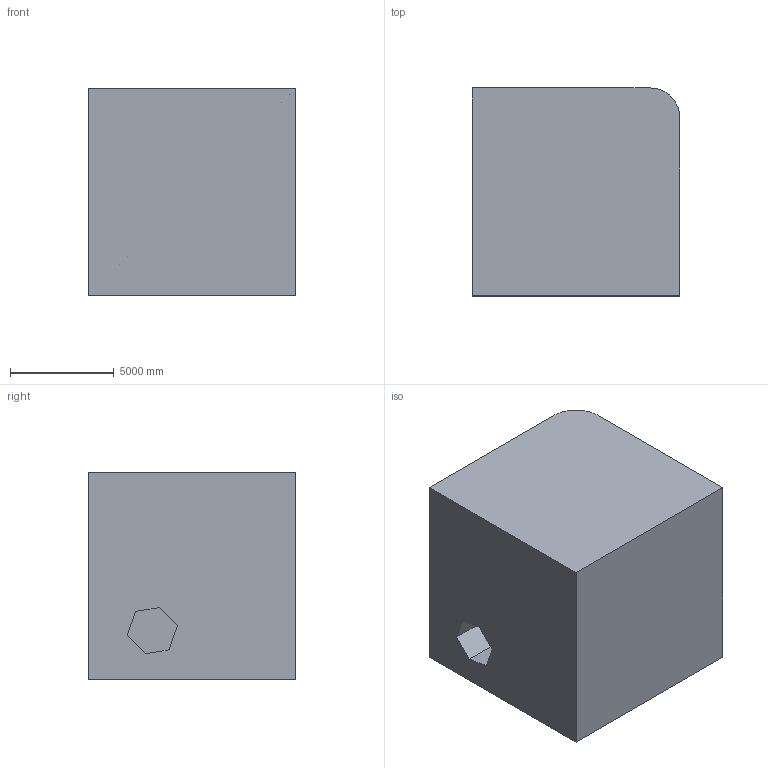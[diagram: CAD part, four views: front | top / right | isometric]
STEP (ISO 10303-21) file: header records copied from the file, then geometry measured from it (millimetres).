
FILE_DESCRIPTION (( 'STEP AP203' ), '1' );
FILE_NAME ('6.STEP', '2022-09-01T11:34:51', ( 'user' ), ( '' ), 'SwSTEP 2.0', 'SolidWorks 2021', '' );
FILE_SCHEMA (( 'CONFIG_CONTROL_DESIGN' ));
Length unit declared in the file: centimetre
Products named in the file (1): 6
Bounding box: 10000 x 10000 x 10000 mm (x, y, z)
Volume: 981727969849.4 mm3; surface area: 619526273.4 mm2
Topology: 1 solids, 1 shells, 14 faces, 33 edges, 22 vertices
Faces by surface type: plane 13, cylinder 1
Entity records: 476 total; most frequent: CARTESIAN_POINT 70, ORIENTED_EDGE 66, DIRECTION 65, EDGE_CURVE 33, LINE 31, VECTOR 31, VERTEX_POINT 22, AXIS2_PLACEMENT_3D 17
